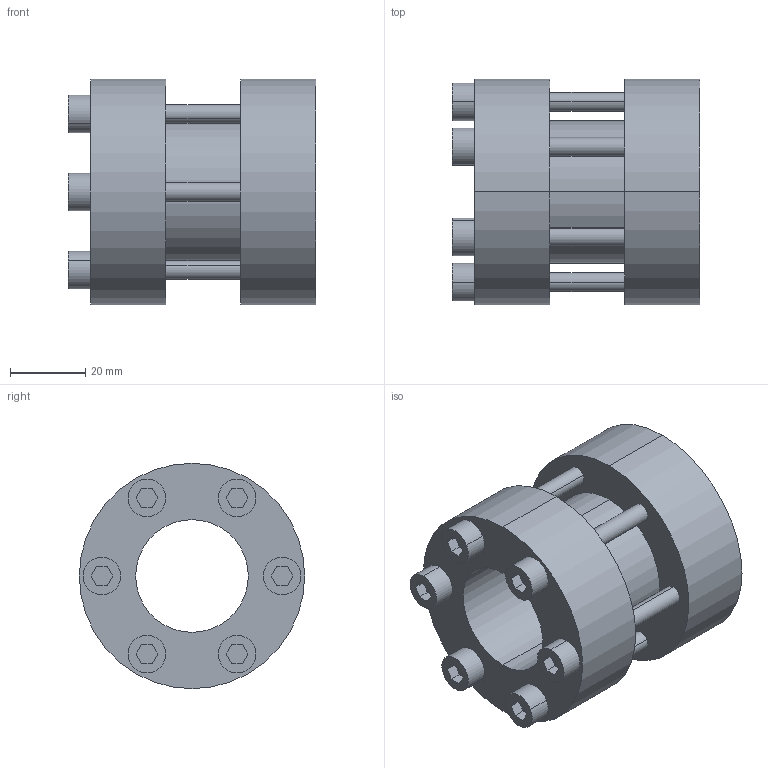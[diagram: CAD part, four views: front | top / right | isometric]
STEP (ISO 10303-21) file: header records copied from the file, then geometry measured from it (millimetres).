
FILE_DESCRIPTION (( 'STEP AP203' ), '1' );
FILE_NAME ('SM-30.STEP', '2009-09-29T17:36:12', ( 'USER' ), ( 'HOME' ), 'SwSTEP 2.0', 'SolidWorks 2007', '' );
FILE_SCHEMA (( 'CONFIG_CONTROL_DESIGN' ));
Length unit declared in the file: millimetre
Products named in the file (1): SM-30
Bounding box: 66 x 60 x 60 mm (x, y, z)
Volume: 96984 mm3; surface area: 33606.4 mm2
Topology: 7 solids, 7 shells, 120 faces, 276 edges, 184 vertices
Faces by surface type: plane 64, cylinder 56
Entity records: 3549 total; most frequent: DIRECTION 630, CARTESIAN_POINT 581, ORIENTED_EDGE 552, EDGE_CURVE 276, AXIS2_PLACEMENT_3D 233, VERTEX_POINT 184, VECTOR 164, LINE 164
